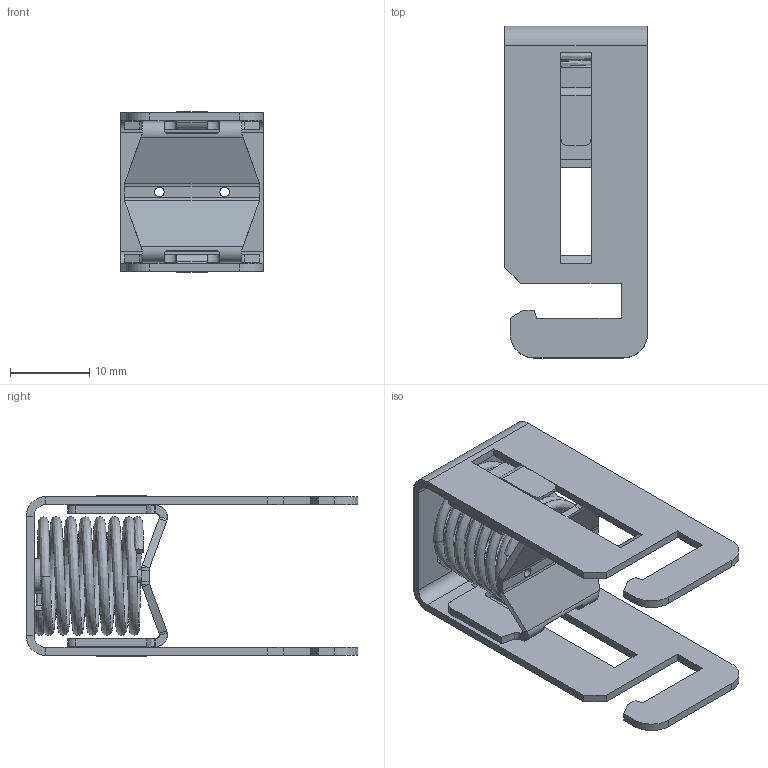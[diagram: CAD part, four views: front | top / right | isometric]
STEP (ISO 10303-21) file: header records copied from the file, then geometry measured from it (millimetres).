
FILE_DESCRIPTION(('STEP AP203'), '1');
FILE_NAME('ÝÌÑ-çàæèì 4-15 ìì (ðàáî÷åå ïîëîæåíèå)', '', ('UNSPECIFIED'), ('UNSPECIFIED'), 'ASCON STEP Converter 1.6', 'ASCON Math Kernel', '');
FILE_SCHEMA(('CONFIG_CONTROL_DESIGN'));
Length unit declared in the file: millimetre
Products named in the file (1): ?ﾋﾖﾈ.687222.084
Bounding box: 18 x 41.8 x 20.16 mm (x, y, z)
Volume: 936 mm3; surface area: 5758.7 mm2
Topology: 2 solids, 7 shells, 358 faces, 959 edges, 606 vertices
Faces by surface type: plane 259, cylinder 92, bspline 7
Full cylindrical faces by diameter (mm): 1.2 x2, 1.6 x2, 3 x2, 4.3 x2
Entity records: 18789 total; most frequent: CARTESIAN_POINT 6890, ORIENTED_EDGE 1896, DIRECTION 1821, EDGE_CURVE 948, LINE 719, VECTOR 719, VERTEX_POINT 606, AXIS2_PLACEMENT_3D 551
